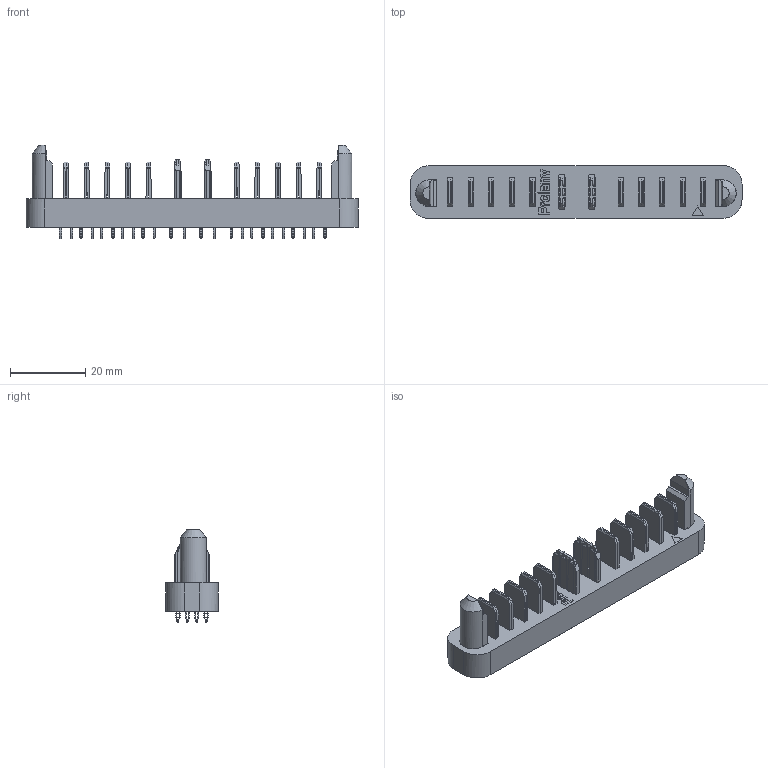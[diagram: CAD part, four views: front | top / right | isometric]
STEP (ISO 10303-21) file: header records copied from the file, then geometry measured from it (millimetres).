
FILE_DESCRIPTION(/* description */ (''),/* implementation_level */ '2;1');
FILE_NAME(/* name */ 'PDC01＋02信号优化Ｘ0.stp',/* time_stamp */ '2025-05-08T16:22:05+08:00',/* author */ (''),/* organization */ (''),/* preprocessor_version */ 'ST-DEVELOPER v16.7',/* originating_system */ 'SIEMENS PLM Software NX 1946',/* authorisation */ '');
FILE_SCHEMA (('AUTOMOTIVE_DESIGN { 1 0 10303 214 3 1 1 1 }'));
Length unit declared in the file: millimetre
Products named in the file (1): PDC01＋02信号优化Ｘ0
Bounding box: 88.5 x 14.05 x 24.88 mm (x, y, z)
Volume: 10647.1 mm3; surface area: 10895.4 mm2
Topology: 1 solids, 1 shells, 5637 faces, 14394 edges, 8804 vertices
Faces by surface type: cylinder 2246, plane 1816, torus 1536, extrusion 31, cone 6, bspline 2
Entity records: 172433 total; most frequent: DIRECTION 32328, CARTESIAN_POINT 31065, ORIENTED_EDGE 28788, EDGE_CURVE 14394, AXIS2_PLACEMENT_3D 12817, VERTEX_POINT 8804, VECTOR 6694, LINE 6663
